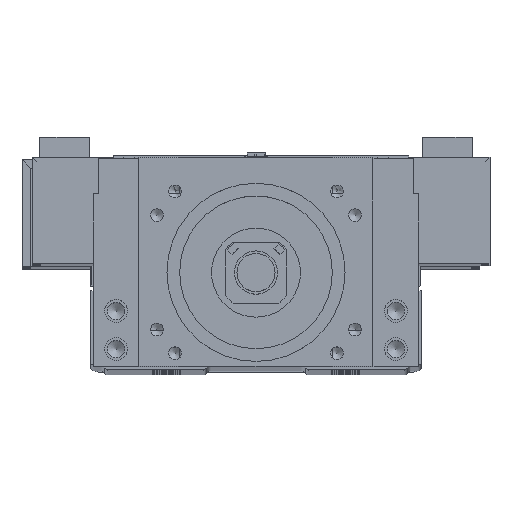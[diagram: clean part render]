
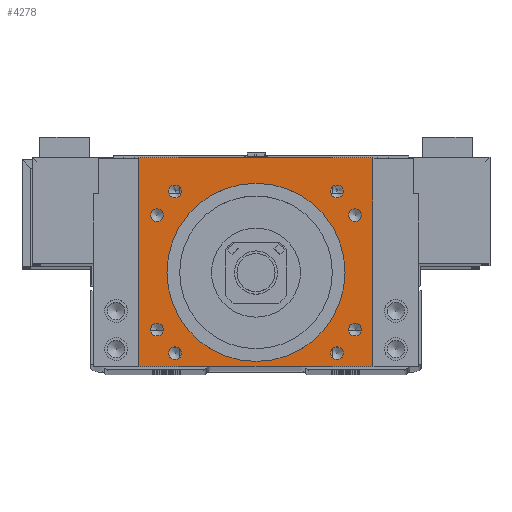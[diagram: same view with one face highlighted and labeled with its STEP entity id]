
A CAD part, top view. The second image highlights one B-rep face of the part: STEP entity #4278.
In plain terms, the highlighted planar face has unit normal (0, 0, 1).
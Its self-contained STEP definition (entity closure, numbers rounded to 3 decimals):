
#4278=ADVANCED_FACE('',(#19133,#19134,#19135,#19136,#19137,#19138,#19139,
#19140,#19141,#19142),#6858,.T.);
#6858=PLANE('',#45851);
#8939=LINE('',#60658,#13931);
#9292=LINE('',#62081,#14284);
#9297=LINE('',#62089,#14289);
#9302=LINE('',#62098,#14294);
#13931=VECTOR('',#48856,1.);
#14284=VECTOR('',#50017,1.);
#14289=VECTOR('',#50028,1.);
#14294=VECTOR('',#50035,1.);
#19133=FACE_BOUND('',#20340,.T.);
#19134=FACE_BOUND('',#20341,.T.);
#19135=FACE_BOUND('',#20342,.T.);
#19136=FACE_BOUND('',#20343,.T.);
#19137=FACE_BOUND('',#20344,.T.);
#19138=FACE_BOUND('',#20345,.T.);
#19139=FACE_BOUND('',#20346,.T.);
#19140=FACE_BOUND('',#20347,.T.);
#19141=FACE_BOUND('',#20348,.T.);
#19142=FACE_BOUND('',#20349,.T.);
#20340=EDGE_LOOP('',(#24360,#24361,#24362,#24363));
#20341=EDGE_LOOP('',(#24364));
#20342=EDGE_LOOP('',(#24365));
#20343=EDGE_LOOP('',(#24366));
#20344=EDGE_LOOP('',(#24367));
#20345=EDGE_LOOP('',(#24368));
#20346=EDGE_LOOP('',(#24369));
#20347=EDGE_LOOP('',(#24370));
#20348=EDGE_LOOP('',(#24371));
#20349=EDGE_LOOP('',(#24372));
#24360=ORIENTED_EDGE('',*,*,#39421,.T.);
#24361=ORIENTED_EDGE('',*,*,#38853,.T.);
#24362=ORIENTED_EDGE('',*,*,#39416,.T.);
#24363=ORIENTED_EDGE('',*,*,#39426,.T.);
#24364=ORIENTED_EDGE('',*,*,#39434,.F.);
#24365=ORIENTED_EDGE('',*,*,#39435,.T.);
#24366=ORIENTED_EDGE('',*,*,#39436,.T.);
#24367=ORIENTED_EDGE('',*,*,#39437,.F.);
#24368=ORIENTED_EDGE('',*,*,#39433,.F.);
#24369=ORIENTED_EDGE('',*,*,#39438,.T.);
#24370=ORIENTED_EDGE('',*,*,#39439,.T.);
#24371=ORIENTED_EDGE('',*,*,#39440,.T.);
#24372=ORIENTED_EDGE('',*,*,#39441,.T.);
#35030=VERTEX_POINT('',#60657);
#35031=VERTEX_POINT('',#60659);
#35431=VERTEX_POINT('',#62079);
#35433=VERTEX_POINT('',#62090);
#35439=VERTEX_POINT('',#62114);
#35440=VERTEX_POINT('',#62117);
#35441=VERTEX_POINT('',#62119);
#35442=VERTEX_POINT('',#62121);
#35443=VERTEX_POINT('',#62123);
#35444=VERTEX_POINT('',#62125);
#35445=VERTEX_POINT('',#62127);
#35446=VERTEX_POINT('',#62129);
#35447=VERTEX_POINT('',#62131);
#38853=EDGE_CURVE('',#35031,#35030,#8939,.T.);
#39416=EDGE_CURVE('',#35030,#35431,#9292,.T.);
#39421=EDGE_CURVE('',#35433,#35031,#9297,.T.);
#39426=EDGE_CURVE('',#35431,#35433,#9302,.T.);
#39433=EDGE_CURVE('',#35439,#35439,#44877,.T.);
#39434=EDGE_CURVE('',#35440,#35440,#44878,.T.);
#39435=EDGE_CURVE('',#35441,#35441,#44879,.T.);
#39436=EDGE_CURVE('',#35442,#35442,#44880,.T.);
#39437=EDGE_CURVE('',#35443,#35443,#44881,.T.);
#39438=EDGE_CURVE('',#35444,#35444,#44882,.T.);
#39439=EDGE_CURVE('',#35445,#35445,#44883,.T.);
#39440=EDGE_CURVE('',#35446,#35446,#44884,.T.);
#39441=EDGE_CURVE('',#35447,#35447,#44885,.T.);
#44877=CIRCLE('',#45841,35.015);
#44878=CIRCLE('',#45843,2.5);
#44879=CIRCLE('',#45844,2.5);
#44880=CIRCLE('',#45845,2.5);
#44881=CIRCLE('',#45846,2.5);
#44882=CIRCLE('',#45847,2.5);
#44883=CIRCLE('',#45848,2.5);
#44884=CIRCLE('',#45849,2.5);
#44885=CIRCLE('',#45850,2.5);
#45841=AXIS2_PLACEMENT_3D('',#62113,#50054,#50055);
#45843=AXIS2_PLACEMENT_3D('',#62116,#50058,#50059);
#45844=AXIS2_PLACEMENT_3D('',#62118,#50060,#50061);
#45845=AXIS2_PLACEMENT_3D('',#62120,#50062,#50063);
#45846=AXIS2_PLACEMENT_3D('',#62122,#50064,#50065);
#45847=AXIS2_PLACEMENT_3D('',#62124,#50066,#50067);
#45848=AXIS2_PLACEMENT_3D('',#62126,#50068,#50069);
#45849=AXIS2_PLACEMENT_3D('',#62128,#50070,#50071);
#45850=AXIS2_PLACEMENT_3D('',#62130,#50072,#50073);
#45851=AXIS2_PLACEMENT_3D('',#62132,#50074,#50075);
#48856=DIRECTION('',(-1.,0.,0.));
#50017=DIRECTION('',(0.,-1.,0.));
#50028=DIRECTION('',(0.,1.,0.));
#50035=DIRECTION('',(1.,0.,0.));
#50054=DIRECTION('',(0.,0.,1.));
#50055=DIRECTION('',(1.,0.,0.));
#50058=DIRECTION('',(0.,0.,1.));
#50059=DIRECTION('',(-1.,0.,0.));
#50060=DIRECTION('',(0.,0.,-1.));
#50061=DIRECTION('',(1.,0.,0.));
#50062=DIRECTION('',(0.,0.,-1.));
#50063=DIRECTION('',(1.,0.,0.));
#50064=DIRECTION('',(0.,0.,1.));
#50065=DIRECTION('',(-1.,0.,0.));
#50066=DIRECTION('',(0.,0.,-1.));
#50067=DIRECTION('',(1.,0.,0.));
#50068=DIRECTION('',(0.,0.,-1.));
#50069=DIRECTION('',(1.,0.,0.));
#50070=DIRECTION('',(0.,0.,-1.));
#50071=DIRECTION('',(1.,0.,0.));
#50072=DIRECTION('',(0.,0.,-1.));
#50073=DIRECTION('',(1.,0.,0.));
#50074=DIRECTION('',(0.,0.,1.));
#50075=DIRECTION('',(-1.,0.,0.));
#60657=CARTESIAN_POINT('',(-46.,83.,100.));
#60658=CARTESIAN_POINT('',(0.,83.,100.));
#60659=CARTESIAN_POINT('',(46.,83.,100.));
#62079=CARTESIAN_POINT('',(-46.,1.,100.));
#62081=CARTESIAN_POINT('',(-46.,38.,100.));
#62089=CARTESIAN_POINT('',(46.,38.,100.));
#62090=CARTESIAN_POINT('',(46.,1.,100.));
#62098=CARTESIAN_POINT('',(0.,1.,100.));
#62113=CARTESIAN_POINT('',(0.,38.,100.));
#62114=CARTESIAN_POINT('',(35.015,38.,100.));
#62116=CARTESIAN_POINT('',(-38.971,15.5,100.));
#62117=CARTESIAN_POINT('',(-41.471,15.5,100.));
#62118=CARTESIAN_POINT('',(38.971,60.5,100.));
#62119=CARTESIAN_POINT('',(41.471,60.5,100.));
#62120=CARTESIAN_POINT('',(38.971,15.5,100.));
#62121=CARTESIAN_POINT('',(41.471,15.5,100.));
#62122=CARTESIAN_POINT('',(-38.971,60.5,100.));
#62123=CARTESIAN_POINT('',(-41.471,60.5,100.));
#62124=CARTESIAN_POINT('',(-31.82,69.82,100.));
#62125=CARTESIAN_POINT('',(-29.32,69.82,100.));
#62126=CARTESIAN_POINT('',(-31.82,6.18,100.));
#62127=CARTESIAN_POINT('',(-29.32,6.18,100.));
#62128=CARTESIAN_POINT('',(31.82,6.18,100.));
#62129=CARTESIAN_POINT('',(34.32,6.18,100.));
#62130=CARTESIAN_POINT('',(31.82,69.82,100.));
#62131=CARTESIAN_POINT('',(34.32,69.82,100.));
#62132=CARTESIAN_POINT('',(0.,38.,100.));
